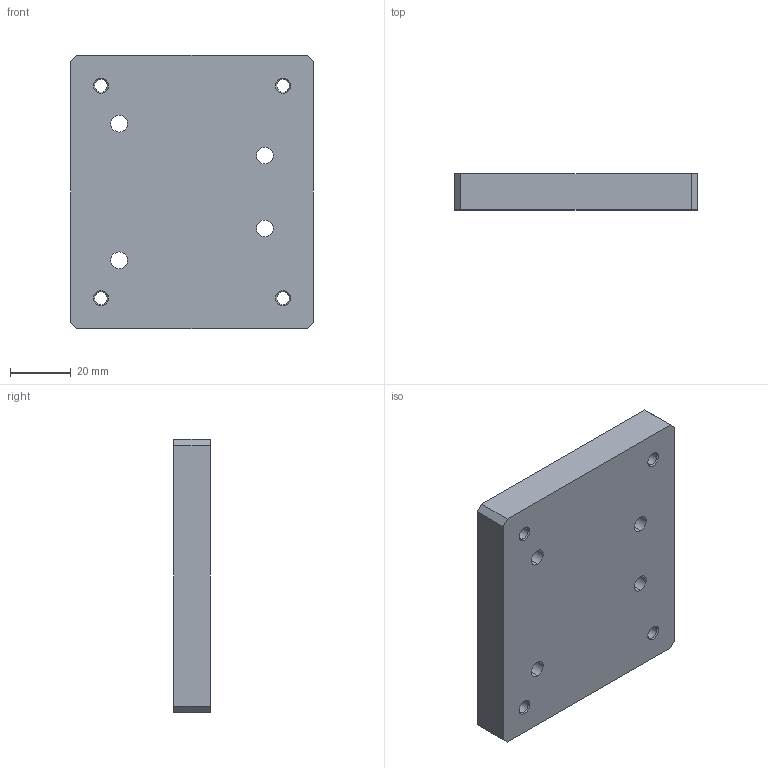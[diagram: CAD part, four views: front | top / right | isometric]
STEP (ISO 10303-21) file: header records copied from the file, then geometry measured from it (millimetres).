
FILE_DESCRIPTION(/* description */ (''),/* implementation_level */ '2;1');
FILE_NAME(/* name */ '测力仪上方转接板.stp',/* time_stamp */ '2026-09-16T08:53:24+08:00',/* author */ (''),/* organization */ (''),/* preprocessor_version */ 'ST-DEVELOPER v20',/* originating_system */ 'SIEMENS PLM Software NX2312.1700',/* authorisation */ '');
FILE_SCHEMA (('AUTOMOTIVE_DESIGN { 1 0 10303 214 3 1 1 1 }'));
Length unit declared in the file: millimetre
Products named in the file (1): 测力仪上方转接板
Bounding box: 80 x 12 x 90 mm (x, y, z)
Volume: 83174.9 mm3; surface area: 19885.8 mm2
Topology: 1 solids, 1 shells, 42 faces, 104 edges, 68 vertices
Faces by surface type: cylinder 20, plane 14, cone 8
Full cylindrical faces by diameter (mm): 4.2 x4
Entity records: 1224 total; most frequent: DIRECTION 222, CARTESIAN_POINT 195, ORIENTED_EDGE 176, AXIS2_PLACEMENT_3D 91, EDGE_CURVE 88, EDGE_LOOP 74, VERTEX_POINT 64, FACE_BOUND 50
